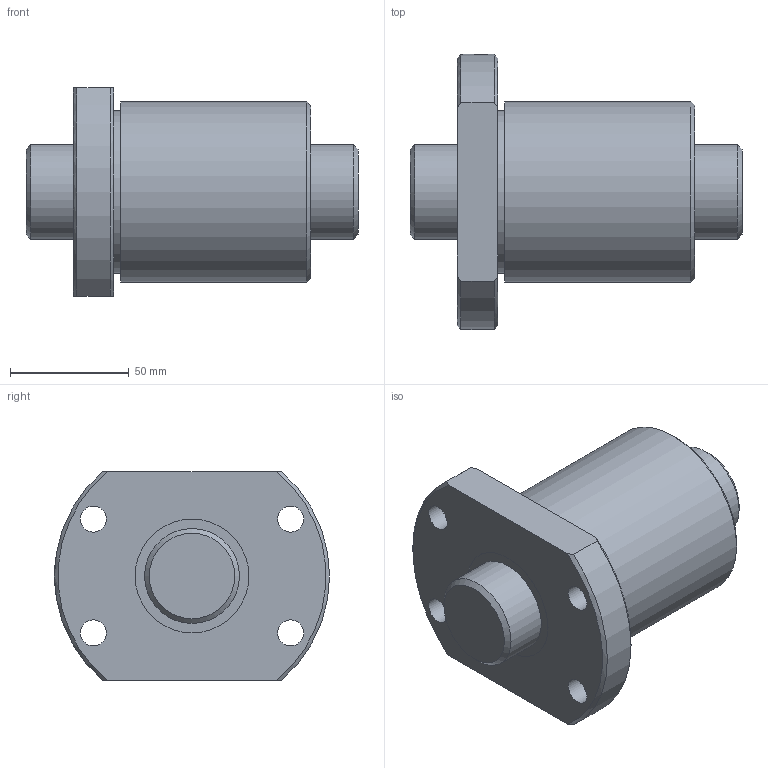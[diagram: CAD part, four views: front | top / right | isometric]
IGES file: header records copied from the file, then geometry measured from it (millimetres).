
Start section: Data from Parasolid IGES Translator 26.0.171, Copyright(c) 2006 Siemens PLM Software. All Rights Reserved.
Global section: file name: BTK4010V-5.3ZZ+140LC7T_000.igs; native system: By Siemens PLM Incorporated; preprocessor: XPlus GENERIC/IGES 26.0.171; author: Noname; organization: Noname; date: 20250116.075839; units: millimetre
Bounding box: 140 x 116 x 88 mm (x, y, z)
Surface area: 77099.7 mm2 (no closed solid volume)
Topology: 0 solids, 0 shells, 31 faces, 136 edges, 121 vertices
Faces by surface type: revolution 21, extrusion 10
